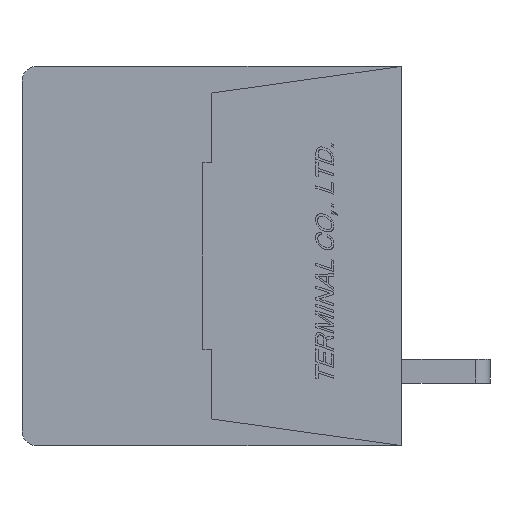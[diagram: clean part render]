
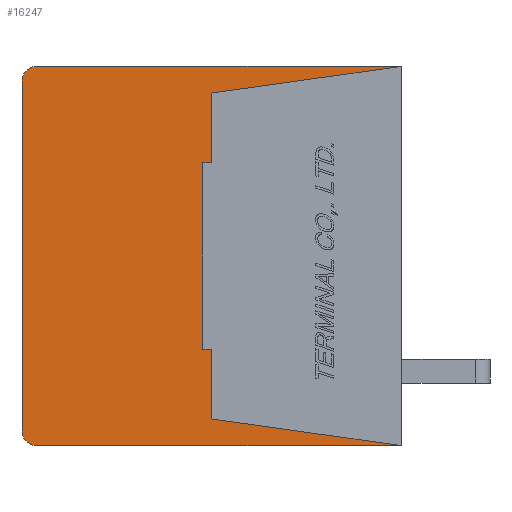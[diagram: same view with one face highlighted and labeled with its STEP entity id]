
A CAD part, left-side view. The second image highlights one B-rep face of the part: STEP entity #16247.
In plain terms, the highlighted planar face has unit normal (-1, 0, 0) as drawn and (1, 0, 0) by its records, which use the part's own axes.
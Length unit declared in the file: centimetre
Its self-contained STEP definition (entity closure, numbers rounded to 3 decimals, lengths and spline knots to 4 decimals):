
#842=CIRCLE('',#27459,0.05);
#843=CIRCLE('',#27460,0.05);
#1408=VERTEX_POINT('',#22203);
#1413=VERTEX_POINT('',#22214);
#1415=VERTEX_POINT('',#22220);
#1417=VERTEX_POINT('',#22226);
#1419=VERTEX_POINT('',#22232);
#1421=VERTEX_POINT('',#22238);
#1423=VERTEX_POINT('',#22244);
#1425=VERTEX_POINT('',#22250);
#1752=VERTEX_POINT('',#23704);
#1753=VERTEX_POINT('',#23706);
#1754=VERTEX_POINT('',#23708);
#1755=VERTEX_POINT('',#23710);
#3121=VECTOR('',#18308,1.);
#3124=VECTOR('',#18312,1.);
#3127=VECTOR('',#18316,1.);
#3130=VECTOR('',#18320,1.);
#3133=VECTOR('',#18324,1.);
#3136=VECTOR('',#18328,1.);
#3139=VECTOR('',#18332,1.);
#3525=VECTOR('',#18831,1.);
#3526=VECTOR('',#18834,1.);
#3527=VECTOR('',#18837,1.);
#5029=LINE('',#22219,#3121);
#5032=LINE('',#22225,#3124);
#5035=LINE('',#22231,#3127);
#5038=LINE('',#22237,#3130);
#5041=LINE('',#22243,#3133);
#5044=LINE('',#22249,#3136);
#5047=LINE('',#22254,#3139);
#5433=LINE('',#23703,#3525);
#5434=LINE('',#23707,#3526);
#5435=LINE('',#23711,#3527);
#7107=EDGE_CURVE('',#1415,#1413,#5029,.T.);
#7110=EDGE_CURVE('',#1417,#1415,#5032,.T.);
#7113=EDGE_CURVE('',#1419,#1417,#5035,.T.);
#7116=EDGE_CURVE('',#1421,#1419,#5038,.T.);
#7119=EDGE_CURVE('',#1423,#1421,#5041,.T.);
#7122=EDGE_CURVE('',#1425,#1423,#5044,.T.);
#7125=EDGE_CURVE('',#1408,#1425,#5047,.T.);
#7615=EDGE_CURVE('',#1413,#1752,#5433,.T.);
#7616=EDGE_CURVE('',#1753,#1752,#842,.T.);
#7617=EDGE_CURVE('',#1753,#1754,#5434,.T.);
#7618=EDGE_CURVE('',#1755,#1754,#843,.T.);
#7619=EDGE_CURVE('',#1755,#1408,#5435,.T.);
#11116=ORIENTED_EDGE('',*,*,#7107,.T.);
#11117=ORIENTED_EDGE('',*,*,#7615,.T.);
#11118=ORIENTED_EDGE('',*,*,#7616,.F.);
#11119=ORIENTED_EDGE('',*,*,#7617,.T.);
#11120=ORIENTED_EDGE('',*,*,#7618,.F.);
#11121=ORIENTED_EDGE('',*,*,#7619,.T.);
#11122=ORIENTED_EDGE('',*,*,#7125,.T.);
#11123=ORIENTED_EDGE('',*,*,#7122,.T.);
#11124=ORIENTED_EDGE('',*,*,#7119,.T.);
#11125=ORIENTED_EDGE('',*,*,#7116,.T.);
#11126=ORIENTED_EDGE('',*,*,#7113,.T.);
#11127=ORIENTED_EDGE('',*,*,#7110,.T.);
#14213=EDGE_LOOP('',(#11116,#11117,#11118,#11119,#11120,#11121,#11122,#11123,
#11124,#11125,#11126,#11127));
#15257=FACE_BOUND('',#14213,.T.);
#16247=ADVANCED_FACE('',(#15257),#17052,.F.);
#17052=PLANE('',#27458);
#18308=DIRECTION('',(0.,-0.99,-0.139));
#18312=DIRECTION('',(0.,0.,-1.));
#18316=DIRECTION('',(0.,-1.,0.));
#18320=DIRECTION('',(0.,0.,-1.));
#18324=DIRECTION('',(0.,1.,0.));
#18328=DIRECTION('',(0.,0.,-1.));
#18332=DIRECTION('',(0.,0.99,-0.139));
#18830=DIRECTION('',(-1.,0.,0.));
#18831=DIRECTION('',(0.,1.,0.));
#18832=DIRECTION('',(-1.,0.,0.));
#18833=DIRECTION('',(0.,0.,0.05));
#18834=DIRECTION('',(0.,0.,1.));
#18835=DIRECTION('',(-1.,0.,0.));
#18836=DIRECTION('',(0.,0.,0.05));
#18837=DIRECTION('',(0.,-1.,0.));
#22203=CARTESIAN_POINT('',(0.,0.,0.64));
#22214=CARTESIAN_POINT('',(0.,0.,-0.64));
#22219=CARTESIAN_POINT('',(0.,0.64,-0.55));
#22220=CARTESIAN_POINT('',(0.,0.64,-0.55));
#22225=CARTESIAN_POINT('',(0.,0.64,-0.315));
#22226=CARTESIAN_POINT('',(0.,0.64,-0.315));
#22231=CARTESIAN_POINT('',(0.,0.67,-0.315));
#22232=CARTESIAN_POINT('',(0.,0.67,-0.315));
#22237=CARTESIAN_POINT('',(0.,0.67,0.315));
#22238=CARTESIAN_POINT('',(0.,0.67,0.315));
#22243=CARTESIAN_POINT('',(0.,0.64,0.315));
#22244=CARTESIAN_POINT('',(0.,0.64,0.315));
#22249=CARTESIAN_POINT('',(0.,0.64,0.55));
#22250=CARTESIAN_POINT('',(0.,0.64,0.55));
#22254=CARTESIAN_POINT('',(0.,0.,0.64));
#23702=CARTESIAN_POINT('',(0.,0.6345,0.));
#23703=CARTESIAN_POINT('',(0.,0.,-0.64));
#23704=CARTESIAN_POINT('',(0.,1.23,-0.64));
#23705=CARTESIAN_POINT('',(0.,1.23,-0.59));
#23706=CARTESIAN_POINT('',(0.,1.28,-0.59));
#23707=CARTESIAN_POINT('',(0.,1.28,-0.59));
#23708=CARTESIAN_POINT('',(0.,1.28,0.59));
#23709=CARTESIAN_POINT('',(0.,1.23,0.59));
#23710=CARTESIAN_POINT('',(0.,1.23,0.64));
#23711=CARTESIAN_POINT('',(0.,1.23,0.64));
#27458=AXIS2_PLACEMENT_3D('',#23702,#18830,$);
#27459=AXIS2_PLACEMENT_3D('',#23705,#18832,#18833);
#27460=AXIS2_PLACEMENT_3D('',#23709,#18835,#18836);
